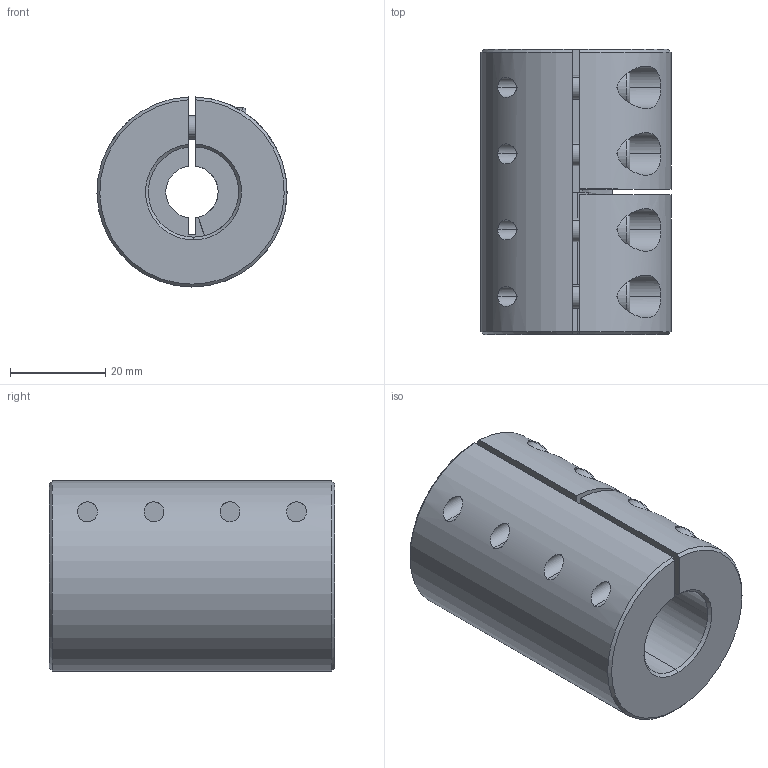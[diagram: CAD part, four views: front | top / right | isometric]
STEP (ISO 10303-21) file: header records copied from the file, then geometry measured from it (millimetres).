
FILE_DESCRIPTION (( 'STEP AP214' ), '1' );
FILE_NAME ('LL-B-D40L60-11-19½¨Ä£.STEP', '2022-07-22T00:57:22', ( '' ), ( '' ), 'SwSTEP 2.0', 'SolidWorks 2022', '' );
FILE_SCHEMA (( 'AUTOMOTIVE_DESIGN' ));
Length unit declared in the file: millimetre
Products named in the file (1): LL-B-D40L60-11-19膘耀
Bounding box: 40 x 60 x 39.99 mm (x, y, z)
Volume: 60720.5 mm3; surface area: 17474.7 mm2
Topology: 1 solids, 1 shells, 181 faces, 459 edges, 288 vertices
Faces by surface type: plane 87, cylinder 71, cone 15, torus 8
Entity records: 5971 total; most frequent: CARTESIAN_POINT 1511, DIRECTION 967, ORIENTED_EDGE 902, EDGE_CURVE 451, AXIS2_PLACEMENT_3D 376, VERTEX_POINT 288, VECTOR 215, LINE 215
